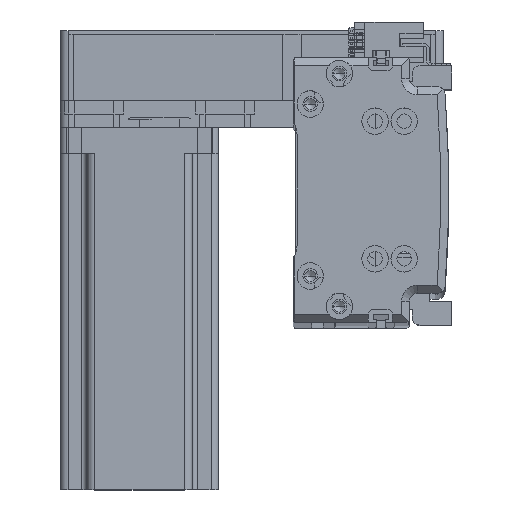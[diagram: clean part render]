
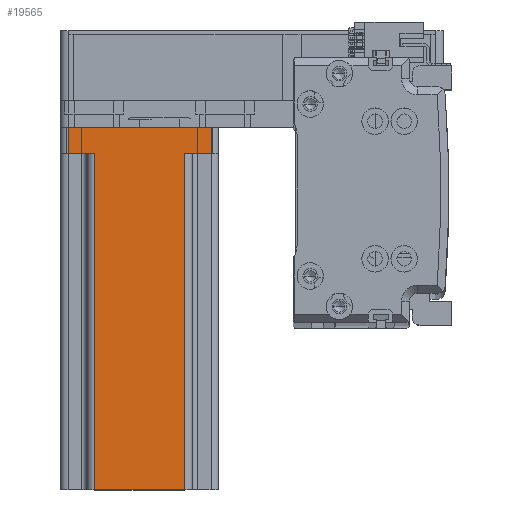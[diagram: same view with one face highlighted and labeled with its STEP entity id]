
A CAD part, top view. The second image highlights one B-rep face of the part: STEP entity #19565.
In plain terms, the highlighted planar face has unit normal (0, 0, 1) as drawn and (0, -1, 0) by its records, which use the part's own axes.
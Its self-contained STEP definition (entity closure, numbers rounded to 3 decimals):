
#743 = CARTESIAN_POINT ( 'NONE',  ( 27., -30., 10. ) ) ;
#1163 = LINE ( 'NONE', #47126, #56663 ) ;
#2614 = EDGE_CURVE ( 'NONE', #43501, #55696, #49793, .T. ) ;
#3221 = FACE_OUTER_BOUND ( 'NONE', #24421, .T. ) ;
#3851 = CARTESIAN_POINT ( 'NONE',  ( 17., -30., 137. ) ) ;
#5871 = EDGE_CURVE ( 'NONE', #23152, #17246, #16765, .T. ) ;
#6457 = VECTOR ( 'NONE', #31428, 1000. ) ;
#6758 = ORIENTED_EDGE ( 'NONE', *, *, #28412, .T. ) ;
#7963 = EDGE_CURVE ( 'NONE', #15758, #17232, #1163, .T. ) ;
#8230 = VECTOR ( 'NONE', #52105, 1000. ) ;
#10257 = CARTESIAN_POINT ( 'NONE',  ( -17., -30., 137. ) ) ;
#11589 = LINE ( 'NONE', #43781, #56845 ) ;
#11619 = CARTESIAN_POINT ( 'NONE',  ( -27., -30., 0. ) ) ;
#13406 = AXIS2_PLACEMENT_3D ( 'NONE', #19607, #50196, #24028 ) ;
#13728 = CARTESIAN_POINT ( 'NONE',  ( 17., -30., 10. ) ) ;
#14202 = ORIENTED_EDGE ( 'NONE', *, *, #51747, .T. ) ;
#14222 = VECTOR ( 'NONE', #49052, 1000. ) ;
#14437 = ORIENTED_EDGE ( 'NONE', *, *, #2614, .F. ) ;
#15595 = LINE ( 'NONE', #22865, #14222 ) ;
#15758 = VERTEX_POINT ( 'NONE', #20129 ) ;
#16765 = LINE ( 'NONE', #53205, #6457 ) ;
#16803 = LINE ( 'NONE', #24618, #27098 ) ;
#17232 = VERTEX_POINT ( 'NONE', #23338 ) ;
#17246 = VERTEX_POINT ( 'NONE', #13728 ) ;
#19565 = ADVANCED_FACE ( 'NONE', ( #3221 ), #32685, .F. ) ;
#19607 = CARTESIAN_POINT ( 'NONE',  ( 30., -30., 137. ) ) ;
#20129 = CARTESIAN_POINT ( 'NONE',  ( -27., -30., 10. ) ) ;
#22865 = CARTESIAN_POINT ( 'NONE',  ( -17., -30., 137. ) ) ;
#23152 = VERTEX_POINT ( 'NONE', #743 ) ;
#23338 = CARTESIAN_POINT ( 'NONE',  ( -17., -30., 10. ) ) ;
#24028 = DIRECTION ( 'NONE',  ( -1., 0., 0. ) ) ;
#24421 = EDGE_LOOP ( 'NONE', ( #14437, #52214, #42888, #14202, #53368, #26328, #39991, #6758 ) ) ;
#24618 = CARTESIAN_POINT ( 'NONE',  ( 30., -30., 0. ) ) ;
#25976 = VERTEX_POINT ( 'NONE', #11619 ) ;
#26321 = DIRECTION ( 'NONE',  ( 0., 0., -1. ) ) ;
#26328 = ORIENTED_EDGE ( 'NONE', *, *, #39583, .T. ) ;
#27098 = VECTOR ( 'NONE', #55222, 1000. ) ;
#28412 = EDGE_CURVE ( 'NONE', #17246, #55696, #31630, .T. ) ;
#28458 = VERTEX_POINT ( 'NONE', #52493 ) ;
#30641 = CARTESIAN_POINT ( 'NONE',  ( 30., -30., 137. ) ) ;
#31428 = DIRECTION ( 'NONE',  ( -1., 0., 0. ) ) ;
#31630 = LINE ( 'NONE', #3851, #8230 ) ;
#32685 = PLANE ( 'NONE',  #13406 ) ;
#33876 = CARTESIAN_POINT ( 'NONE',  ( 17., -30., 137. ) ) ;
#36307 = CARTESIAN_POINT ( 'NONE',  ( 27., -30., 137. ) ) ;
#37572 = EDGE_CURVE ( 'NONE', #25976, #28458, #16803, .T. ) ;
#38224 = VECTOR ( 'NONE', #39446, 1000. ) ;
#39446 = DIRECTION ( 'NONE',  ( 1., 0., 0. ) ) ;
#39583 = EDGE_CURVE ( 'NONE', #28458, #23152, #56231, .T. ) ;
#39991 = ORIENTED_EDGE ( 'NONE', *, *, #5871, .T. ) ;
#41676 = EDGE_CURVE ( 'NONE', #43501, #17232, #15595, .T. ) ;
#42888 = ORIENTED_EDGE ( 'NONE', *, *, #7963, .F. ) ;
#43230 = VECTOR ( 'NONE', #53841, 1000. ) ;
#43501 = VERTEX_POINT ( 'NONE', #10257 ) ;
#43781 = CARTESIAN_POINT ( 'NONE',  ( -27., -30., 137. ) ) ;
#47126 = CARTESIAN_POINT ( 'NONE',  ( -20., -30., 10. ) ) ;
#49052 = DIRECTION ( 'NONE',  ( 0., 0., -1. ) ) ;
#49793 = LINE ( 'NONE', #30641, #38224 ) ;
#50196 = DIRECTION ( 'NONE',  ( 0., 1., 0. ) ) ;
#51515 = DIRECTION ( 'NONE',  ( 1., 0., 0. ) ) ;
#51747 = EDGE_CURVE ( 'NONE', #15758, #25976, #11589, .T. ) ;
#52105 = DIRECTION ( 'NONE',  ( 0., 0., 1. ) ) ;
#52214 = ORIENTED_EDGE ( 'NONE', *, *, #41676, .T. ) ;
#52493 = CARTESIAN_POINT ( 'NONE',  ( 27., -30., 0. ) ) ;
#53205 = CARTESIAN_POINT ( 'NONE',  ( 20., -30., 10. ) ) ;
#53368 = ORIENTED_EDGE ( 'NONE', *, *, #37572, .T. ) ;
#53841 = DIRECTION ( 'NONE',  ( 0., 0., 1. ) ) ;
#55222 = DIRECTION ( 'NONE',  ( 1., 0., 0. ) ) ;
#55696 = VERTEX_POINT ( 'NONE', #33876 ) ;
#56231 = LINE ( 'NONE', #36307, #43230 ) ;
#56663 = VECTOR ( 'NONE', #51515, 1000. ) ;
#56845 = VECTOR ( 'NONE', #26321, 1000. ) ;
